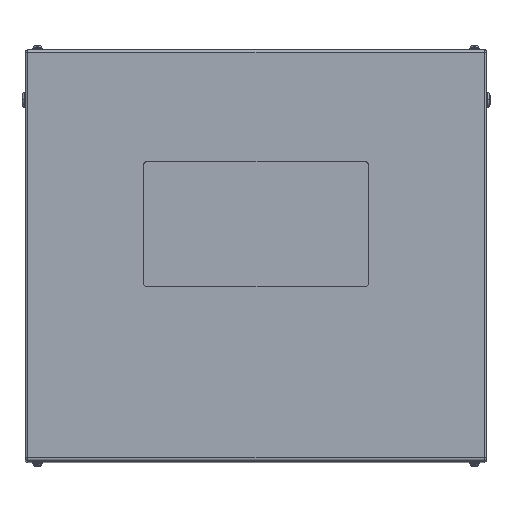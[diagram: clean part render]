
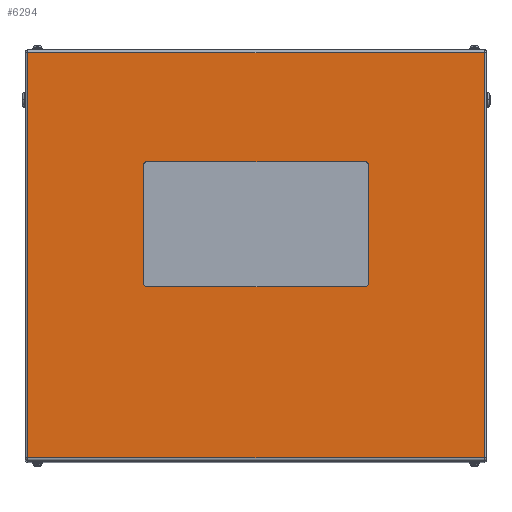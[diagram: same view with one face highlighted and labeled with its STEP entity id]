
A CAD part, top view. The second image highlights one B-rep face of the part: STEP entity #6294.
In plain terms, the highlighted planar face has unit normal (0, 0, 1).
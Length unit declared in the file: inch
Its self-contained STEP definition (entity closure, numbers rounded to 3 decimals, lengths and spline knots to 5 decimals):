
#56 = LINE ( 'NONE', #8253, #10749 ) ;
#112 = EDGE_CURVE ( 'NONE', #16837, #19246, #4196, .T. ) ;
#161 = CARTESIAN_POINT ( 'NONE',  ( 18.3, 16.5, 29. ) ) ;
#229 = DIRECTION ( 'NONE',  ( 0., 0., 1. ) ) ;
#490 = AXIS2_PLACEMENT_3D ( 'NONE', #16504, #6909, #16294 ) ;
#1258 = CIRCLE ( 'NONE', #12628, 0.25 ) ;
#1387 = VECTOR ( 'NONE', #16594, 39.37008 ) ;
#1782 = CARTESIAN_POINT ( 'NONE',  ( -8.75, 7.5, 29. ) ) ;
#1971 = VERTEX_POINT ( 'NONE', #3728 ) ;
#2363 = CARTESIAN_POINT ( 'NONE',  ( 18.3, -16.234, 29. ) ) ;
#3728 = CARTESIAN_POINT ( 'NONE',  ( -9., 7.25, 29. ) ) ;
#3955 = DIRECTION ( 'NONE',  ( 0., 0., -1. ) ) ;
#4189 = VERTEX_POINT ( 'NONE', #13313 ) ;
#4196 = CIRCLE ( 'NONE', #490, 0.25 ) ;
#4610 = DIRECTION ( 'NONE',  ( 0., 1., 0. ) ) ;
#4727 = LINE ( 'NONE', #7780, #18345 ) ;
#4868 = CARTESIAN_POINT ( 'NONE',  ( -18.3, -16.234, 29. ) ) ;
#4904 = CARTESIAN_POINT ( 'NONE',  ( 8.75, -2.5, 29. ) ) ;
#4921 = AXIS2_PLACEMENT_3D ( 'NONE', #8804, #3955, #15147 ) ;
#4992 = DIRECTION ( 'NONE',  ( 1., 0., 0. ) ) ;
#4993 = VECTOR ( 'NONE', #17786, 39.37008 ) ;
#5072 = VERTEX_POINT ( 'NONE', #19165 ) ;
#5076 = LINE ( 'NONE', #11422, #9500 ) ;
#5235 = FACE_OUTER_BOUND ( 'NONE', #14263, .T. ) ;
#5345 = ORIENTED_EDGE ( 'NONE', *, *, #112, .F. ) ;
#5471 = EDGE_CURVE ( 'NONE', #19756, #1971, #7199, .T. ) ;
#5993 = CARTESIAN_POINT ( 'NONE',  ( 8.75, 7.25, 29. ) ) ;
#6294 = ADVANCED_FACE ( 'NONE', ( #6806, #5235 ), #20100, .F. ) ;
#6689 = CARTESIAN_POINT ( 'NONE',  ( -8.75, 7.5, 29. ) ) ;
#6806 = FACE_BOUND ( 'NONE', #8146, .T. ) ;
#6909 = DIRECTION ( 'NONE',  ( 0., 0., 1. ) ) ;
#6957 = EDGE_CURVE ( 'NONE', #5072, #12533, #12852, .T. ) ;
#7199 = CIRCLE ( 'NONE', #9556, 0.25 ) ;
#7433 = VERTEX_POINT ( 'NONE', #19740 ) ;
#7546 = CARTESIAN_POINT ( 'NONE',  ( 9., 7.25, 29. ) ) ;
#7780 = CARTESIAN_POINT ( 'NONE',  ( -9., 7.25, 29. ) ) ;
#7964 = VECTOR ( 'NONE', #4610, 39.37008 ) ;
#8146 = EDGE_LOOP ( 'NONE', ( #15402, #9225, #16491, #19614, #12099, #9136, #8468, #5345 ) ) ;
#8253 = CARTESIAN_POINT ( 'NONE',  ( -8.75, -2.5, 29. ) ) ;
#8370 = VERTEX_POINT ( 'NONE', #4868 ) ;
#8468 = ORIENTED_EDGE ( 'NONE', *, *, #18185, .F. ) ;
#8502 = LINE ( 'NONE', #13061, #4993 ) ;
#8804 = CARTESIAN_POINT ( 'NONE',  ( 18.5, 16.5, 29. ) ) ;
#9136 = ORIENTED_EDGE ( 'NONE', *, *, #16406, .F. ) ;
#9225 = ORIENTED_EDGE ( 'NONE', *, *, #11759, .F. ) ;
#9402 = CARTESIAN_POINT ( 'NONE',  ( 9., -2.25, 29. ) ) ;
#9500 = VECTOR ( 'NONE', #17716, 39.37008 ) ;
#9556 = AXIS2_PLACEMENT_3D ( 'NONE', #11466, #9939, #19334 ) ;
#9701 = VECTOR ( 'NONE', #14516, 39.37008 ) ;
#9872 = ORIENTED_EDGE ( 'NONE', *, *, #14537, .T. ) ;
#9939 = DIRECTION ( 'NONE',  ( 0., 0., 1. ) ) ;
#10243 = LINE ( 'NONE', #2363, #1387 ) ;
#10678 = DIRECTION ( 'NONE',  ( -1., 0., 0. ) ) ;
#10749 = VECTOR ( 'NONE', #15885, 39.37008 ) ;
#11225 = EDGE_CURVE ( 'NONE', #1971, #4189, #4727, .T. ) ;
#11422 = CARTESIAN_POINT ( 'NONE',  ( 18.5, 16.234, 29. ) ) ;
#11466 = CARTESIAN_POINT ( 'NONE',  ( -8.75, 7.25, 29. ) ) ;
#11759 = EDGE_CURVE ( 'NONE', #4189, #7433, #1258, .T. ) ;
#12099 = ORIENTED_EDGE ( 'NONE', *, *, #19122, .F. ) ;
#12345 = DIRECTION ( 'NONE',  ( 0., 0., 1. ) ) ;
#12363 = EDGE_CURVE ( 'NONE', #19154, #8370, #8502, .T. ) ;
#12461 = DIRECTION ( 'NONE',  ( 0., -1., 0. ) ) ;
#12533 = VERTEX_POINT ( 'NONE', #15684 ) ;
#12622 = DIRECTION ( 'NONE',  ( 0., 1., 0. ) ) ;
#12628 = AXIS2_PLACEMENT_3D ( 'NONE', #14589, #229, #4992 ) ;
#12636 = ORIENTED_EDGE ( 'NONE', *, *, #12363, .T. ) ;
#12852 = LINE ( 'NONE', #161, #7964 ) ;
#12946 = VERTEX_POINT ( 'NONE', #16022 ) ;
#13061 = CARTESIAN_POINT ( 'NONE',  ( -18.3, 16.5, 29. ) ) ;
#13313 = CARTESIAN_POINT ( 'NONE',  ( -9., -2.25, 29. ) ) ;
#14263 = EDGE_LOOP ( 'NONE', ( #12636, #16718, #17342, #9872 ) ) ;
#14516 = DIRECTION ( 'NONE',  ( -1., 0., 0. ) ) ;
#14537 = EDGE_CURVE ( 'NONE', #12533, #19154, #5076, .T. ) ;
#14589 = CARTESIAN_POINT ( 'NONE',  ( -8.75, -2.25, 29. ) ) ;
#15147 = DIRECTION ( 'NONE',  ( -1., 0., 0. ) ) ;
#15402 = ORIENTED_EDGE ( 'NONE', *, *, #16728, .F. ) ;
#15684 = CARTESIAN_POINT ( 'NONE',  ( 18.3, 16.234, 29. ) ) ;
#15885 = DIRECTION ( 'NONE',  ( 1., 0., 0. ) ) ;
#16022 = CARTESIAN_POINT ( 'NONE',  ( 9., 7.25, 29. ) ) ;
#16088 = LINE ( 'NONE', #6689, #9701 ) ;
#16294 = DIRECTION ( 'NONE',  ( 1., 0., 0. ) ) ;
#16406 = EDGE_CURVE ( 'NONE', #12946, #19904, #20124, .T. ) ;
#16491 = ORIENTED_EDGE ( 'NONE', *, *, #11225, .F. ) ;
#16504 = CARTESIAN_POINT ( 'NONE',  ( 8.75, -2.25, 29. ) ) ;
#16594 = DIRECTION ( 'NONE',  ( 1., 0., 0. ) ) ;
#16718 = ORIENTED_EDGE ( 'NONE', *, *, #16951, .T. ) ;
#16728 = EDGE_CURVE ( 'NONE', #7433, #16837, #56, .T. ) ;
#16837 = VERTEX_POINT ( 'NONE', #4904 ) ;
#16951 = EDGE_CURVE ( 'NONE', #8370, #5072, #10243, .T. ) ;
#17040 = LINE ( 'NONE', #7546, #19808 ) ;
#17342 = ORIENTED_EDGE ( 'NONE', *, *, #6957, .T. ) ;
#17716 = DIRECTION ( 'NONE',  ( -1., 0., 0. ) ) ;
#17786 = DIRECTION ( 'NONE',  ( 0., -1., 0. ) ) ;
#18005 = CARTESIAN_POINT ( 'NONE',  ( 8.75, 7.5, 29. ) ) ;
#18185 = EDGE_CURVE ( 'NONE', #19246, #12946, #17040, .T. ) ;
#18345 = VECTOR ( 'NONE', #12461, 39.37008 ) ;
#19122 = EDGE_CURVE ( 'NONE', #19904, #19756, #16088, .T. ) ;
#19154 = VERTEX_POINT ( 'NONE', #19326 ) ;
#19165 = CARTESIAN_POINT ( 'NONE',  ( 18.3, -16.234, 29. ) ) ;
#19246 = VERTEX_POINT ( 'NONE', #9402 ) ;
#19326 = CARTESIAN_POINT ( 'NONE',  ( -18.3, 16.234, 29. ) ) ;
#19334 = DIRECTION ( 'NONE',  ( 1., 0., 0. ) ) ;
#19614 = ORIENTED_EDGE ( 'NONE', *, *, #5471, .F. ) ;
#19740 = CARTESIAN_POINT ( 'NONE',  ( -8.75, -2.5, 29. ) ) ;
#19756 = VERTEX_POINT ( 'NONE', #1782 ) ;
#19782 = AXIS2_PLACEMENT_3D ( 'NONE', #5993, #12345, #10678 ) ;
#19808 = VECTOR ( 'NONE', #12622, 39.37008 ) ;
#19904 = VERTEX_POINT ( 'NONE', #18005 ) ;
#20100 = PLANE ( 'NONE',  #4921 ) ;
#20124 = CIRCLE ( 'NONE', #19782, 0.25 ) ;
